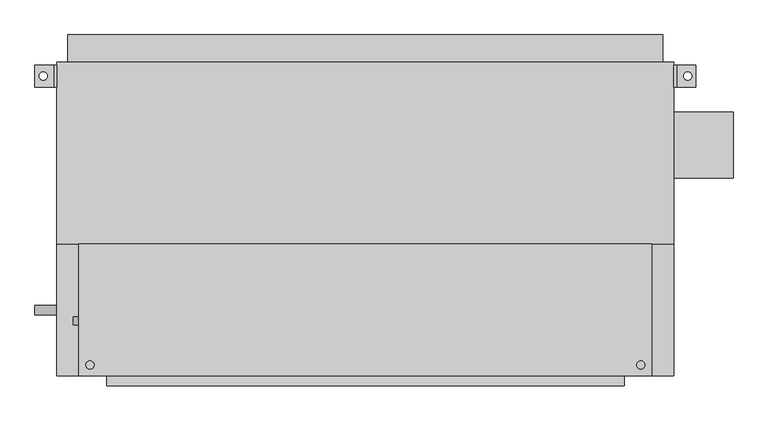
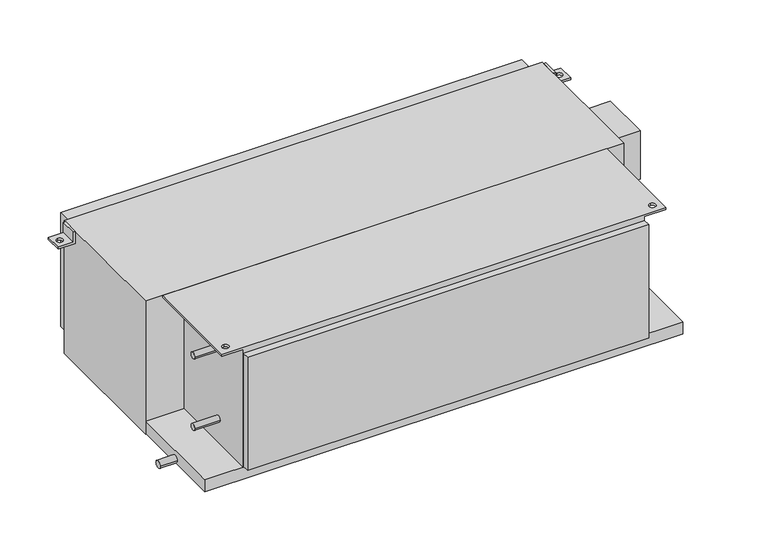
"""IFC4 building model written with IfcOpenShell, lengths in millimetres: proxy geometry, Concealed_High_Capacity_Horizontal_Fan_Coil_Unit_With_Plenum_-_42DCA_-_CARRIER_-_2-Pipe_Cool-EHeat_LH_2022 : Size 20 - 277v/60Hz/1Ph - 6 Row 14.0kW."""

from ifc_helpers import new_model, si_unit, point, frame, frame_2d, origin, place, context, project, spatial, polyline, circle_curve, trimmed, segment, composite_curve, outline, extrude, source, transform, mapped, element, save
from ifc_brep_helpers import plane_surface, revolved_surface, advanced_brep


def mechanical_equipment_08a460e9(model_context):
    return source(origin(), model_context, "Body", "SolidModel", [
        advanced_brep(
        [(-558.8, 327.025, -38.1), (-609.6, 327.025, -38.1), (-609.6, 327.025, -31.75), (-565.15, 327.025, -31.75), (-565.15, 327.025, 0.0), (-558.8, 327.025, 0.0), (-558.8, 276.225, -38.1), (-558.8, 276.225, 0.0), (-565.15, 276.225, 0.0), (-565.15, 276.225, -31.75), (-609.6, 276.225, -31.75), (-609.6, 276.225, -38.1), (-590.55, 292.1, -38.1), (-590.55, 311.15, -38.1), (-590.55, 311.15, -31.75), (-590.55, 292.1, -31.75)],
        [
            (0, 1),
            (1, 2),
            (2, 3),
            (3, 4),
            (4, 5),
            (5, 0),
            (6, 7),
            (7, 8),
            (8, 9),
            (9, 10),
            (10, 11),
            (11, 6),
            (0, 6),
            (11, 1),
            (12, 13, circle_curve(frame((-590.55, 301.625, -38.1), z_axis=(0.0, 0.0, 1.0), x_axis=(0.0, -1.0, 0.0)), 9.525)),
            (13, 12, circle_curve(frame((-590.55, 301.625, -38.1), z_axis=(0.0, 0.0, 1.0), x_axis=(0.0, -1.0, 0.0)), 9.525)),
            (10, 2),
            (9, 3),
            (14, 15, circle_curve(frame((-590.55, 301.625, -31.75), z_axis=(0.0, 0.0, -1.0), x_axis=(0.0, -1.0, 0.0)), 9.525)),
            (15, 14, circle_curve(frame((-590.55, 301.625, -31.75), z_axis=(0.0, 0.0, -1.0), x_axis=(0.0, -1.0, 0.0)), 9.525)),
            (8, 4),
            (7, 5),
            (14, 13),
            (12, 15),
        ],
        [
            plane_surface(frame((-558.8, 327.025, -38.1), z_axis=(0.0, 1.0, 0.0), x_axis=(-1.0, 0.0, 0.0))),
            plane_surface(frame((-558.8, 276.225, -38.1), z_axis=(0.0, -1.0, 0.0), x_axis=(1.0, 0.0, 0.0))),
            plane_surface(frame((-558.8, 327.025, -38.1), z_axis=(0.0, 0.0, -1.0), x_axis=(0.0, -1.0, 0.0))),
            plane_surface(frame((-609.6, 327.025, -38.1), z_axis=(-1.0, 0.0, 0.0), x_axis=(0.0, -1.0, 0.0))),
            plane_surface(frame((-609.6, 327.025, -31.75), z_axis=(0.0, 0.0, 1.0), x_axis=(0.0, -1.0, 0.0))),
            plane_surface(frame((-565.15, 327.025, -31.75), z_axis=(-1.0, 0.0, 0.0), x_axis=(0.0, -1.0, 0.0))),
            plane_surface(frame((-565.15, 327.025, 0.0), z_axis=(0.0, 0.0, 1.0), x_axis=(0.0, -1.0, 0.0))),
            plane_surface(frame((-558.8, 327.025, 0.0), z_axis=(1.0, 0.0, 0.0), x_axis=(0.0, -1.0, 0.0))),
            revolved_surface(polyline([(-590.55, 292.1, -38.1), (-590.55, 292.1, -31.75)]), (-590.55, 301.625, -31.75), (0.0, 0.0, -1.0)),
        ],
        [
            (0, [[1, 2, 3, 4, 5, 6]]),
            (1, [[7, 8, 9, 10, 11, 12]]),
            (2, [[-1, 13, -12, 14], [15, 16]]),
            (3, [[-2, -14, -11, 17]]),
            (4, [[-3, -17, -10, 18], [19, 20]]),
            (5, [[-4, -18, -9, 21]]),
            (6, [[-5, -21, -8, 22]]),
            (7, [[-6, -22, -7, -13]]),
            (8, [[23, -15, 24, -19]]),
            (8, [[-23, -20, -24, -16]]),
        ],
    ),
        advanced_brep(
        [(863.6, 327.025, -38.1), (863.6, 327.025, 0.0), (869.95, 327.025, 0.0), (869.95, 327.025, -31.75), (914.4, 327.025, -31.75), (914.4, 327.025, -38.1), (863.6, 276.225, -38.1), (914.4, 276.225, -38.1), (914.4, 276.225, -31.75), (869.95, 276.225, -31.75), (869.95, 276.225, 0.0), (863.6, 276.225, 0.0), (895.35, 311.15, -31.75), (895.35, 292.1, -31.75), (895.35, 292.1, -38.1), (895.35, 311.15, -38.1)],
        [
            (0, 1),
            (1, 2),
            (2, 3),
            (3, 4),
            (4, 5),
            (5, 0),
            (6, 7),
            (7, 8),
            (8, 9),
            (9, 10),
            (10, 11),
            (11, 6),
            (0, 6),
            (11, 1),
            (10, 2),
            (9, 3),
            (8, 4),
            (12, 13, circle_curve(frame((895.35, 301.625, -31.75), z_axis=(0.0, 0.0, -1.0), x_axis=(0.0, -1.0, 0.0)), 9.525)),
            (13, 12, circle_curve(frame((895.35, 301.625, -31.75), z_axis=(0.0, 0.0, -1.0), x_axis=(0.0, -1.0, 0.0)), 9.525)),
            (7, 5),
            (14, 15, circle_curve(frame((895.35, 301.625, -38.1), z_axis=(0.0, 0.0, 1.0), x_axis=(0.0, -1.0, 0.0)), 9.525)),
            (15, 14, circle_curve(frame((895.35, 301.625, -38.1), z_axis=(0.0, 0.0, 1.0), x_axis=(0.0, -1.0, 0.0)), 9.525)),
            (12, 15),
            (14, 13),
        ],
        [
            plane_surface(frame((-558.8, 327.025, -38.1), z_axis=(0.0, 1.0, 0.0), x_axis=(-1.0, 0.0, 0.0))),
            plane_surface(frame((-558.8, 276.225, -38.1), z_axis=(0.0, -1.0, 0.0), x_axis=(1.0, 0.0, 0.0))),
            plane_surface(frame((863.6, 327.025, -38.1), z_axis=(-1.0, 0.0, 0.0), x_axis=(0.0, -1.0, 0.0))),
            plane_surface(frame((863.6, 327.025, 0.0), z_axis=(0.0, 0.0, 1.0), x_axis=(0.0, -1.0, 0.0))),
            plane_surface(frame((869.95, 327.025, 0.0), z_axis=(1.0, 0.0, 0.0), x_axis=(0.0, -1.0, 0.0))),
            plane_surface(frame((869.95, 327.025, -31.75), z_axis=(0.0, 0.0, 1.0), x_axis=(0.0, -1.0, 0.0))),
            plane_surface(frame((914.4, 327.025, -31.75), z_axis=(1.0, 0.0, 0.0), x_axis=(0.0, -1.0, 0.0))),
            plane_surface(frame((914.4, 327.025, -38.1), z_axis=(0.0, 0.0, -1.0), x_axis=(0.0, -1.0, 0.0))),
            revolved_surface(polyline([(895.35, 292.1, -38.1), (895.35, 292.1, -31.75)]), (895.35, 301.625, -31.75), (0.0, 0.0, -1.0)),
        ],
        [
            (0, [[1, 2, 3, 4, 5, 6]]),
            (1, [[7, 8, 9, 10, 11, 12]]),
            (2, [[-1, 13, -12, 14]]),
            (3, [[-2, -14, -11, 15]]),
            (4, [[-3, -15, -10, 16]]),
            (5, [[-4, -16, -9, 17], [18, 19]]),
            (6, [[-5, -17, -8, 20]]),
            (7, [[-6, -20, -7, -13], [21, 22]]),
            (8, [[23, -21, 24, -18]]),
            (8, [[-23, -19, -24, -22]]),
        ],
    ),
        advanced_brep(
        [(-508.0, -85.725, -6.35), (-444.5, -85.725, -6.35), (-444.5, -390.525, -6.35), (-508.0, -390.525, -6.35), (-482.6, -355.6, -6.35), (-482.6, -374.65, -6.35), (812.8, -85.725, -6.35), (812.8, -390.525, -6.35), (749.3, -390.525, -6.35), (749.3, -85.725, -6.35), (787.4, -355.6, -6.35), (787.4, -374.65, -6.35), (-508.0, -85.725, 0.0), (-508.0, -390.525, 0.0), (812.8, -390.525, 0.0), (812.8, -85.725, 0.0), (-482.6, -374.65, 0.0), (-482.6, -355.6, 0.0), (787.4, -374.65, 0.0), (787.4, -355.6, 0.0), (-444.5, -390.525, -377.825), (749.3, -390.525, -377.825), (749.3, -85.725, -377.825), (-444.5, -85.725, -377.825)],
        [
            (0, 1),
            (1, 2),
            (2, 3),
            (3, 0),
            (4, 5, circle_curve(frame((-482.6, -365.125, -6.35), z_axis=(0.0, 0.0, 1.0), x_axis=(0.0, 1.0, 0.0)), 9.525)),
            (5, 4, circle_curve(frame((-482.6, -365.125, -6.35), z_axis=(0.0, 0.0, 1.0), x_axis=(0.0, 1.0, 0.0)), 9.525)),
            (6, 7),
            (7, 8),
            (8, 9),
            (9, 6),
            (10, 11, circle_curve(frame((787.4, -365.125, -6.35), z_axis=(0.0, 0.0, 1.0), x_axis=(0.0, 1.0, 0.0)), 9.525)),
            (11, 10, circle_curve(frame((787.4, -365.125, -6.35), z_axis=(0.0, 0.0, 1.0), x_axis=(0.0, 1.0, 0.0)), 9.525)),
            (12, 13),
            (13, 14),
            (14, 15),
            (15, 12),
            (16, 17, circle_curve(frame((-482.6, -365.125, 0.0), z_axis=(0.0, 0.0, -1.0), x_axis=(0.0, 1.0, 0.0)), 9.525)),
            (17, 16, circle_curve(frame((-482.6, -365.125, 0.0), z_axis=(0.0, 0.0, -1.0), x_axis=(0.0, 1.0, 0.0)), 9.525)),
            (18, 19, circle_curve(frame((787.4, -365.125, 0.0), z_axis=(0.0, 0.0, -1.0), x_axis=(0.0, 1.0, 0.0)), 9.525)),
            (19, 18, circle_curve(frame((787.4, -365.125, 0.0), z_axis=(0.0, 0.0, -1.0), x_axis=(0.0, 1.0, 0.0)), 9.525)),
            (3, 13),
            (12, 0),
            (2, 20),
            (20, 21),
            (21, 8),
            (7, 14),
            (15, 6),
            (9, 22),
            (22, 23),
            (23, 1),
            (22, 21),
            (20, 23),
            (16, 5),
            (4, 17),
            (18, 11),
            (10, 19),
        ],
        [
            plane_surface(frame((-508.0, -85.725, -6.35), z_axis=(0.0, 0.0, -1.0), x_axis=(0.0, 1.0, 0.0))),
            plane_surface(frame((-508.0, -85.725, 0.0), z_axis=(0.0, 0.0, 1.0), x_axis=(0.0, -1.0, 0.0))),
            plane_surface(frame((-508.0, -85.725, 0.0), z_axis=(-1.0, 0.0, 0.0), x_axis=(0.0, 0.0, -1.0))),
            plane_surface(frame((-508.0, -390.525, 0.0), z_axis=(0.0, -1.0, 0.0), x_axis=(0.0, 0.0, -1.0))),
            plane_surface(frame((-444.5, -85.725, 0.0), z_axis=(0.0, 1.0, 0.0), x_axis=(0.0, 0.0, -1.0))),
            plane_surface(frame((812.8, -390.525, 0.0), z_axis=(1.0, 0.0, 0.0), x_axis=(0.0, 0.0, -1.0))),
            plane_surface(frame((-444.5, -85.725, -377.825), z_axis=(0.0, 0.0, -1.0), x_axis=(1.0, 0.0, 0.0))),
            plane_surface(frame((-444.5, -85.725, 0.0), z_axis=(-1.0, 0.0, 0.0), x_axis=(0.0, 0.0, -1.0))),
            plane_surface(frame((749.3, -390.525, 0.0), z_axis=(1.0, 0.0, 0.0), x_axis=(0.0, 0.0, -1.0))),
            revolved_surface(polyline([(-482.6, -355.6, -6.35), (-482.6, -355.6, 0.0)]), (-482.6, -365.125, 0.0), (0.0, 0.0, -1.0)),
            revolved_surface(polyline([(787.4, -355.6, -6.35), (787.4, -355.6, 0.0)]), (787.4, -365.125, 0.0), (0.0, 0.0, -1.0)),
        ],
        [
            (0, [[1, 2, 3, 4], [5, 6]]),
            (0, [[7, 8, 9, 10], [11, 12]]),
            (1, [[13, 14, 15, 16], [17, 18], [19, 20]]),
            (2, [[-4, 21, -13, 22]]),
            (3, [[-3, 23, 24, 25, -8, 26, -14, -21]]),
            (4, [[-1, -22, -16, 27, -10, 28, 29, 30]]),
            (5, [[-7, -27, -15, -26]]),
            (6, [[31, -24, 32, -29]]),
            (7, [[-32, -23, -2, -30]]),
            (8, [[-31, -28, -9, -25]]),
            (9, [[33, -5, 34, -17]]),
            (9, [[-33, -18, -34, -6]]),
            (10, [[35, -11, 36, -19]]),
            (10, [[-35, -20, -36, -12]]),
        ],
    ),
        extrude(outline(polyline([(-533.4, 396.875), (838.2, 396.875), (838.2, 333.375), (-533.4, 333.375), (-533.4, 396.875)])), frame((0.0, 0.0, -381.0), z_axis=(0.0, 0.0, 1.0), x_axis=(1.0, 0.0, 0.0)), (0.0, 0.0, 1.0), 358.775),
        extrude(outline(composite_curve([segment(trimmed(circle_curve(frame_2d((-263.525, -76.2)), 9.525), [point((-273.05, -76.2))], [point((-254.0, -76.2))], False, "CARTESIAN"), True, "CONTINUOUS"), segment(trimmed(circle_curve(frame_2d((-263.525, -76.2)), 9.525), [point((-254.0, -76.2))], [point((-273.05, -76.2))], False, "CARTESIAN"), True, "CONTINUOUS")], self_intersect=False)), frame((-520.7, 0.0, 0.0), z_axis=(1.0, 0.0, 0.0), x_axis=(0.0, 1.0, 0.0)), (0.0, 0.0, 1.0), 76.2),
        extrude(outline(composite_curve([segment(trimmed(circle_curve(frame_2d((-263.525, -301.625)), 9.525), [point((-273.05, -301.625))], [point((-254.0, -301.625))], False, "CARTESIAN"), True, "CONTINUOUS"), segment(trimmed(circle_curve(frame_2d((-263.525, -301.625)), 9.525), [point((-254.0, -301.625))], [point((-273.05, -301.625))], False, "CARTESIAN"), True, "CONTINUOUS")], self_intersect=False)), frame((-520.7, 0.0, 0.0), z_axis=(1.0, 0.0, 0.0), x_axis=(0.0, 1.0, 0.0)), (0.0, 0.0, 1.0), 76.2),
        extrude(outline(composite_curve([segment(trimmed(circle_curve(frame_2d((-238.125, -403.225)), 11.1125), [point((-249.2375, -403.225))], [point((-227.0125, -403.225))], False, "CARTESIAN"), True, "CONTINUOUS"), segment(trimmed(circle_curve(frame_2d((-238.125, -403.225)), 11.1125), [point((-227.0125, -403.225))], [point((-249.2375, -403.225))], False, "CARTESIAN"), True, "CONTINUOUS")], self_intersect=False)), frame((-609.6, 0.0, 0.0), z_axis=(1.0, 0.0, 0.0), x_axis=(0.0, 1.0, 0.0)), (0.0, 0.0, 1.0), 50.8),
        extrude(outline(polyline([(1000.125, 219.075), (1000.125, 66.675), (863.6, 66.675), (863.6, 219.075), (1000.125, 219.075)])), frame((0.0, 0.0, -254.0), z_axis=(0.0, 0.0, 1.0), x_axis=(1.0, 0.0, 0.0)), (0.0, 0.0, 1.0), 152.4),
        extrude(outline(polyline([(749.3, -412.75), (-444.5, -412.75), (-444.5, -390.525), (749.3, -390.525), (749.3, -412.75)])), frame((0.0, 0.0, -374.65), z_axis=(0.0, 0.0, 1.0), x_axis=(1.0, 0.0, 0.0)), (0.0, 0.0, 1.0), 355.6),
        extrude(outline(polyline([(863.6, -85.725), (-558.8, -85.725), (-558.8, 333.375), (863.6, 333.375), (863.6, -85.725)])), frame((0.0, 0.0, -419.1), z_axis=(0.0, 0.0, 1.0), x_axis=(1.0, 0.0, 0.0)), (0.0, 0.0, 1.0), 419.1),
        extrude(outline(polyline([(863.6, -85.725), (863.6, -390.525), (-558.8, -390.525), (-558.8, -85.725), (863.6, -85.725)])), frame((0.0, 0.0, -415.925), z_axis=(0.0, 0.0, 1.0), x_axis=(1.0, 0.0, 0.0)), (0.0, 0.0, 1.0), 38.1),
    ])


if __name__ == "__main__":
    model = new_model("IFC4")
    model_context = context("Model", 3, world=origin())
    ifc_project = project(units=[si_unit("LENGTHUNIT", "METRE", prefix="MILLI")], contexts=[model_context])
    site = spatial("IfcSite", under=ifc_project)
    building = spatial("IfcBuilding", under=site)
    placement = place(None, origin())
    mechanical_equipment_shape = mechanical_equipment_08a460e9(model_context)
    element("IfcBuildingElementProxy", 1, Name="Concealed_High_Capacity_Horizontal_Fan_Coil_Unit_With_Plenum_-_42DCA_-_CARRIER_-_2-Pipe_Cool-EHeat_LH_2022 : Size 20 - 277v/60Hz/1Ph - 6 Row 14.0kW", ObjectType="Concealed_High_Capacity_Horizontal_Fan_Coil_Unit_With_Plenum_-_42DCA_-_CARRIER_-_2-Pipe_Cool-EHeat_LH_2022 : Size 20 - 277v/60Hz/1Ph - 6 Row 14.0kW", at=placement, inside=building, context=model_context, shape_type="MappedRepresentation", body=[
        mapped(mechanical_equipment_shape, transform((0.0, 0.0, 0.0), x_axis=(1.0, 0.0, 0.0), y_axis=(0.0, 1.0, 0.0), z_axis=(0.0, 0.0, 1.0))),
    ])
    save(model, "model.ifc")
